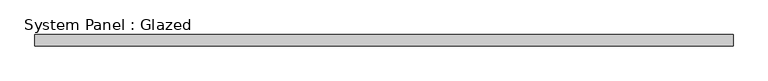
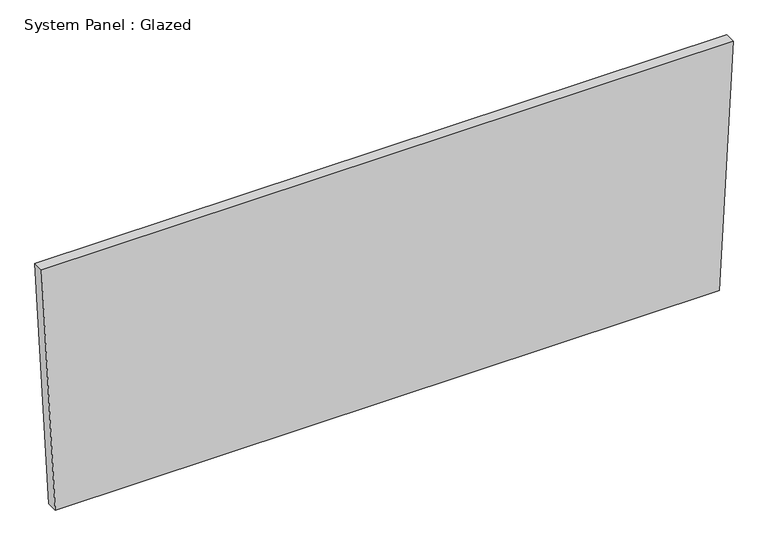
"""IFC4 building model written with IfcOpenShell, lengths in millimetres: plate geometry, System Panel : Glazed."""

from ifc_helpers import new_model, si_unit, frame, origin, place, context, project, spatial, polyline, outline, extrude, source, transform, mapped, element, save


def system_panel_glazed_217bc4a3(model_context):
    return source(origin(), model_context, "Body", "SweptSolid", [
        extrude(outline(polyline([(0.0, -748.285638), (0.0, 748.285638), (583.3481362, 779.1573671), (583.3481362, -779.1573671), (0.0, -748.285638)])), frame((0.0, 19.05, 0.0), z_axis=(0.0, 1.0, 0.0), x_axis=(0.0, 0.0, 1.0)), (0.0, 0.0, 1.0), 25.4),
    ])


if __name__ == "__main__":
    model = new_model("IFC4")
    model_context = context("Model", 3, world=origin())
    ifc_project = project(units=[si_unit("LENGTHUNIT", "METRE", prefix="MILLI")], contexts=[model_context])
    site = spatial("IfcSite", under=ifc_project)
    building = spatial("IfcBuilding", under=site)
    placement = place(None, origin())
    system_panel_glazed_shape = system_panel_glazed_217bc4a3(model_context)
    element("IfcPlate", 1, ObjectType="System Panel : Glazed", at=placement, inside=building, context=model_context, shape_type="MappedRepresentation", body=[
        mapped(system_panel_glazed_shape, transform((0.0, 0.0, 0.0), x_axis=(1.0, 0.0, 0.0), y_axis=(0.0, 1.0, 0.0), z_axis=(0.0, 0.0, 1.0))),
    ])
    save(model, "model.ifc")
